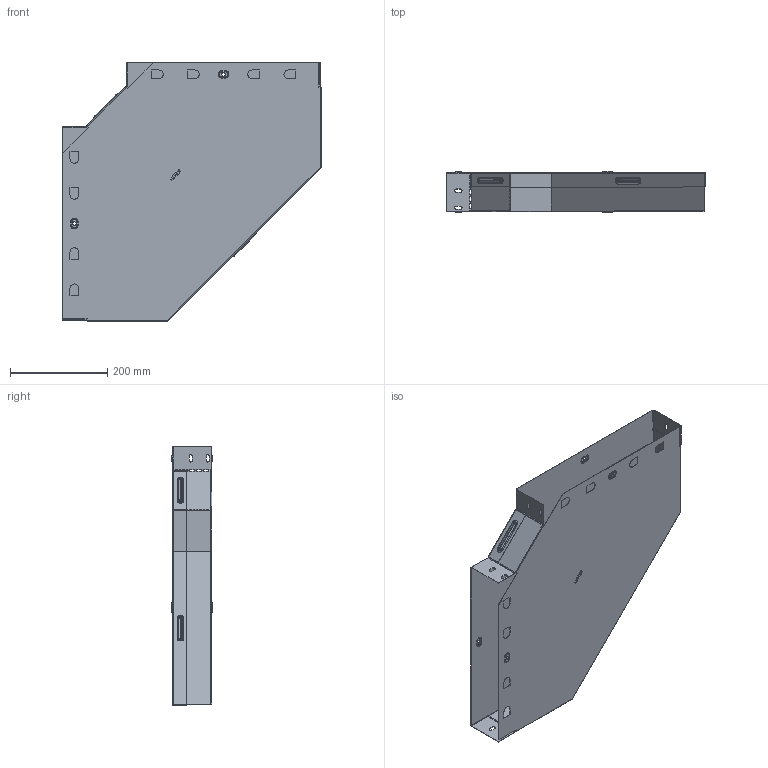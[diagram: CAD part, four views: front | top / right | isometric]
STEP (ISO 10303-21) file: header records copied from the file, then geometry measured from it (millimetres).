
FILE_DESCRIPTION (( 'STEP AP214' ), '1' );
FILE_NAME ('g9080400_捘.STEP', '2019-06-10T09:52:39', ( '砐錪賧瘔蠈錪 Windows' ), ( '' ), 'SwSTEP 2.0', 'SolidWorks 2018', '' );
FILE_SCHEMA (( 'AUTOMOTIVE_DESIGN' ));
Length unit declared in the file: millimetre
Products named in the file (1): g9080400_捘
Bounding box: 530.8 x 83.8 x 530.8 mm (x, y, z)
Volume: 429987.6 mm3; surface area: 1080193.5 mm2
Topology: 2 solids, 2 shells, 598 faces, 1662 edges, 1076 vertices
Faces by surface type: plane 352, cylinder 156, torus 64, bspline 26
Entity records: 20463 total; most frequent: CARTESIAN_POINT 4813, ORIENTED_EDGE 3324, DIRECTION 3136, EDGE_CURVE 1662, VECTOR 1206, LINE 1206, VERTEX_POINT 1076, AXIS2_PLACEMENT_3D 965
